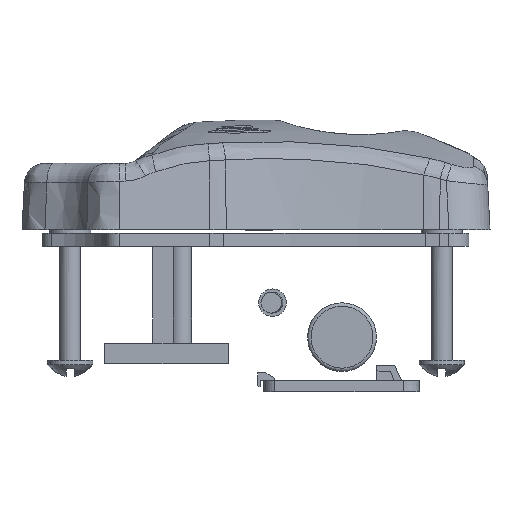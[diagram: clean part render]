
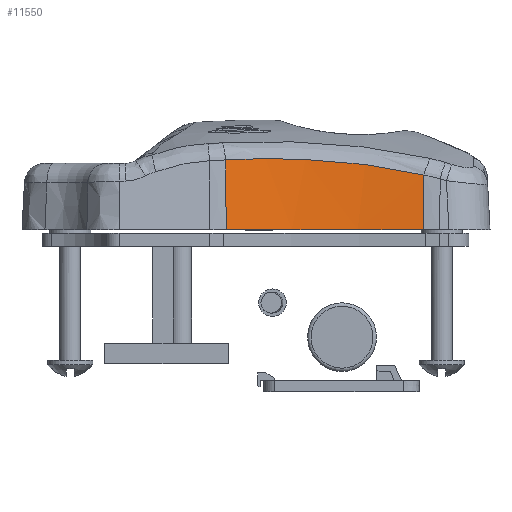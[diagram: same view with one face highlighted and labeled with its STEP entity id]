
A CAD part, left-side view. The second image highlights one B-rep face of the part: STEP entity #11550.
In plain terms, the highlighted conical face has half-angle 8 degrees and reference radius 100.208 mm.
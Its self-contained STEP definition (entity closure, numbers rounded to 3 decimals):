
#351=CONICAL_SURFACE('',#38321,100.208,8.);
#9573=B_SPLINE_CURVE_WITH_KNOTS('',3,(#61113,#61114,#61115,#61116),
 .UNSPECIFIED.,.F.,.F.,(4,4),(0.,1.),.UNSPECIFIED.);
#9574=B_SPLINE_CURVE_WITH_KNOTS('',3,(#61118,#61119,#61120,#61121,#61122,
#61123,#61124,#61125),.UNSPECIFIED.,.F.,.F.,(4,2,2,4),(0.,0.25,0.5,1.),
 .UNSPECIFIED.);
#9575=B_SPLINE_CURVE_WITH_KNOTS('',3,(#61127,#61128,#61129,#61130,#61131,
#61132,#61133),.UNSPECIFIED.,.F.,.F.,(4,3,4),(0.,0.012,1.),
 .UNSPECIFIED.);
#10102=CIRCLE('',#38255,120.);
#11550=ADVANCED_FACE('',(#14113),#351,.F.);
#14113=FACE_OUTER_BOUND('',#15878,.T.);
#15878=EDGE_LOOP('',(#23012,#23013,#23014,#23015));
#23012=ORIENTED_EDGE('',*,*,#30950,.T.);
#23013=ORIENTED_EDGE('',*,*,#30951,.T.);
#23014=ORIENTED_EDGE('',*,*,#30952,.T.);
#23015=ORIENTED_EDGE('',*,*,#30708,.F.);
#26862=VERTEX_POINT('',#57569);
#26863=VERTEX_POINT('',#57571);
#27068=VERTEX_POINT('',#61117);
#27069=VERTEX_POINT('',#61126);
#30708=EDGE_CURVE('',#26862,#26863,#10102,.T.);
#30950=EDGE_CURVE('',#26862,#27068,#9573,.T.);
#30951=EDGE_CURVE('',#27068,#27069,#9574,.T.);
#30952=EDGE_CURVE('',#27069,#26863,#9575,.T.);
#38255=AXIS2_PLACEMENT_3D('',#57570,#43763,#43764);
#38321=AXIS2_PLACEMENT_3D('',#61134,#43920,#43921);
#43763=DIRECTION('',(0.,0.,1.));
#43764=DIRECTION('',(0.993,-0.119,0.));
#43920=DIRECTION('',(0.,0.,1.));
#43921=DIRECTION('',(1.,0.,0.));
#57569=CARTESIAN_POINT('',(-28.858,-24.327,0.));
#57570=CARTESIAN_POINT('',(-148.,-10.,0.));
#57571=CARTESIAN_POINT('',(-28.858,4.327,0.));
#61113=CARTESIAN_POINT('',(-28.858,-24.327,0.));
#61114=CARTESIAN_POINT('',(-28.487,-24.352,2.643));
#61115=CARTESIAN_POINT('',(-28.116,-24.378,5.286));
#61116=CARTESIAN_POINT('',(-27.745,-24.403,7.93));
#61117=CARTESIAN_POINT('',(-27.745,-24.403,7.93));
#61118=CARTESIAN_POINT('',(-27.745,-24.403,7.93));
#61119=CARTESIAN_POINT('',(-27.378,-22.079,8.557));
#61120=CARTESIAN_POINT('',(-27.105,-19.688,8.96));
#61121=CARTESIAN_POINT('',(-26.726,-14.904,9.602));
#61122=CARTESIAN_POINT('',(-26.62,-12.5,9.834));
#61123=CARTESIAN_POINT('',(-26.542,-5.26,10.352));
#61124=CARTESIAN_POINT('',(-26.815,-0.389,10.451));
#61125=CARTESIAN_POINT('',(-27.436,4.424,10.133));
#61126=CARTESIAN_POINT('',(-27.436,4.424,10.133));
#61127=CARTESIAN_POINT('',(-27.436,4.424,10.133));
#61128=CARTESIAN_POINT('',(-27.442,4.424,10.091));
#61129=CARTESIAN_POINT('',(-27.447,4.423,10.05));
#61130=CARTESIAN_POINT('',(-27.453,4.423,10.009));
#61131=CARTESIAN_POINT('',(-27.922,4.391,6.672));
#61132=CARTESIAN_POINT('',(-28.39,4.359,3.336));
#61133=CARTESIAN_POINT('',(-28.858,4.327,0.));
#61134=CARTESIAN_POINT('',(-148.,-10.,-140.827));
